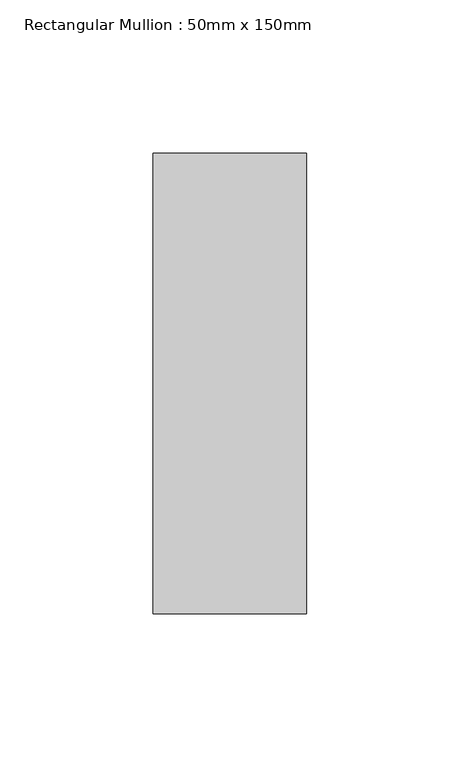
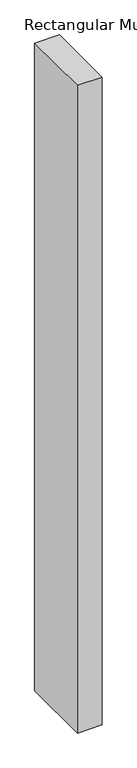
"""IFC4 building model written with IfcOpenShell, lengths in millimetres: member geometry, Rectangular Mullion : 50mm x 150mm."""

from ifc_helpers import new_model, si_unit, frame, origin, place, context, project, spatial, polyline, outline, extrude, source, transform, mapped, element, save


def rectangular_mullion_50mm_x_150mm_015f125c(model_context):
    return source(origin(), model_context, "Body", "SweptSolid", [
        extrude(outline(polyline([(0.0, 75.0), (0.0, -75.0), (-50.0, -75.0), (-50.0, 75.0), (0.0, 75.0)])), frame((0.0, 0.0, -1388.8800774), z_axis=(0.0, 0.0, 1.0), x_axis=(1.0, 0.0, 0.0)), (0.0, 0.0, 1.0), 1388.8800774),
    ])


if __name__ == "__main__":
    model = new_model("IFC4")
    model_context = context("Model", 3, world=origin())
    ifc_project = project(units=[si_unit("LENGTHUNIT", "METRE", prefix="MILLI")], contexts=[model_context])
    site = spatial("IfcSite", under=ifc_project)
    building = spatial("IfcBuilding", under=site)
    placement = place(None, origin())
    rectangular_mullion_50mm_x_150mm_shape = rectangular_mullion_50mm_x_150mm_015f125c(model_context)
    element("IfcMember", 1, ObjectType="Rectangular Mullion : 50mm x 150mm", at=placement, inside=building, context=model_context, shape_type="MappedRepresentation", body=[
        mapped(rectangular_mullion_50mm_x_150mm_shape, transform((0.0, 0.0, 0.0), x_axis=(1.0, 0.0, 0.0), y_axis=(0.0, 1.0, 0.0), z_axis=(0.0, 0.0, 1.0))),
    ])
    save(model, "model.ifc")
